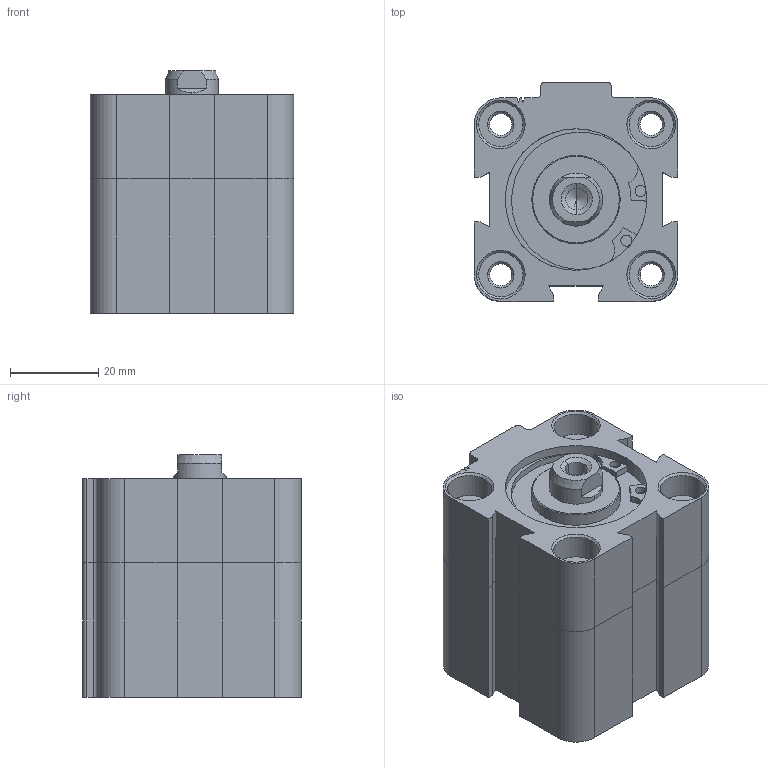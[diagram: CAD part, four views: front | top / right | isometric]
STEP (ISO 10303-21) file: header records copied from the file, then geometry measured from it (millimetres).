
FILE_DESCRIPTION (( 'STEP AP214' ), '1' );
FILE_NAME ('WSAC-032-0010 (MDMY).STEP', '2016-07-26T13:10:01', ( 'Hidtek' ), ( '' ), 'SwSTEP 2.0', 'SolidWorks 2016', '' );
FILE_SCHEMA (( 'AUTOMOTIVE_DESIGN' ));
Length unit declared in the file: millimetre
Products named in the file (3): Assem1^WSAC-032-0010 (MDMY); WSAC-032-0010 (MDMY); Group1^WSAC-032-0010 (MDMY)
Assembly tree (2 placements, depth 2):
  WSAC-032-0010 (MDMY)
    Group1^WSAC-032-0010 (MDMY)
    Assem1^WSAC-032-0010 (MDMY)
Bounding box: 46 x 49.5 x 54.95 mm (x, y, z)
Volume: 82472.9 mm3; surface area: 31034.7 mm2
Topology: 3 solids, 3 shells, 317 faces, 816 edges, 529 vertices
Faces by surface type: plane 185, cylinder 88, cone 44
Entity records: 11297 total; most frequent: CARTESIAN_POINT 1823, DIRECTION 1664, ORIENTED_EDGE 1628, EDGE_CURVE 814, LINE 584, VECTOR 584, AXIS2_PLACEMENT_3D 540, VERTEX_POINT 529
